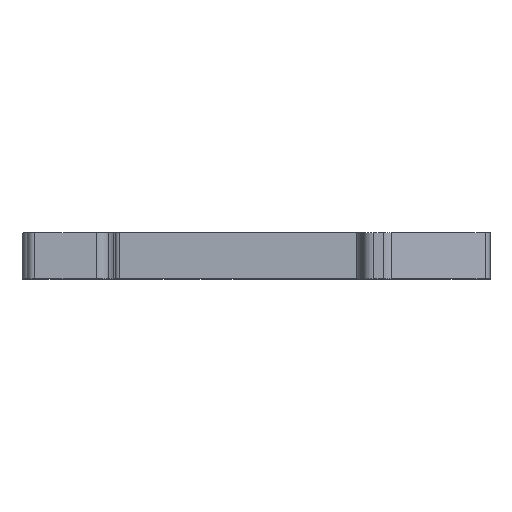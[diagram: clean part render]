
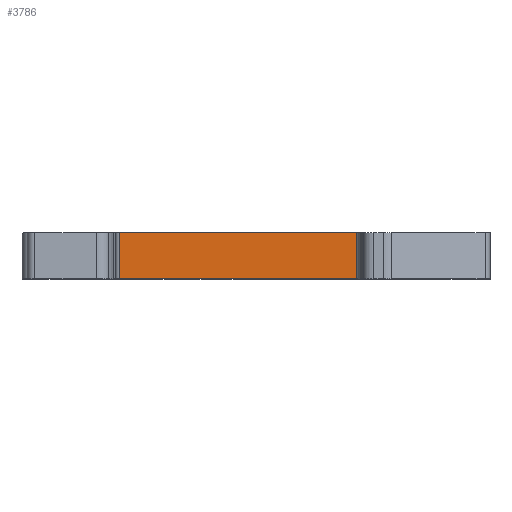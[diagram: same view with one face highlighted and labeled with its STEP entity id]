
A CAD part, top view. The second image highlights one B-rep face of the part: STEP entity #3786.
In plain terms, the highlighted planar face has unit normal (0, 0, 1).
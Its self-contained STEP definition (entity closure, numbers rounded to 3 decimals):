
#329=FACE_OUTER_BOUND('',#525,.T.);
#525=EDGE_LOOP('',(#2869,#2870,#2871,#2872));
#720=LINE('',#5596,#1108);
#840=LINE('',#5997,#1228);
#859=LINE('',#6048,#1247);
#860=LINE('',#6050,#1248);
#1108=VECTOR('',#4443,32.92);
#1228=VECTOR('',#4827,32.92);
#1247=VECTOR('',#4886,6.15);
#1248=VECTOR('',#4889,6.15);
#1527=VERTEX_POINT('',#5593);
#1528=VERTEX_POINT('',#5595);
#1676=VERTEX_POINT('',#5994);
#1677=VERTEX_POINT('',#5996);
#1891=EDGE_CURVE('',#1527,#1528,#720,.T.);
#2092=EDGE_CURVE('',#1677,#1676,#840,.T.);
#2118=EDGE_CURVE('',#1527,#1677,#859,.T.);
#2119=EDGE_CURVE('',#1528,#1676,#860,.T.);
#2869=ORIENTED_EDGE('',*,*,#1891,.F.);
#2870=ORIENTED_EDGE('',*,*,#2118,.T.);
#2871=ORIENTED_EDGE('',*,*,#2092,.T.);
#2872=ORIENTED_EDGE('',*,*,#2119,.F.);
#3455=PLANE('',#4120);
#3786=ADVANCED_FACE('',(#329),#3455,.T.);
#4120=AXIS2_PLACEMENT_3D('',#6049,#4887,#4888);
#4443=DIRECTION('',(1.,0.,0.));
#4827=DIRECTION('',(1.,0.,0.));
#4886=DIRECTION('',(0.,-1.,0.));
#4887=DIRECTION('center_axis',(0.,0.,1.));
#4888=DIRECTION('ref_axis',(1.,0.,0.));
#4889=DIRECTION('',(0.,-1.,0.));
#5593=CARTESIAN_POINT('',(-18.27,0.,11.95));
#5595=CARTESIAN_POINT('',(14.65,0.,11.95));
#5596=CARTESIAN_POINT('',(-18.27,0.,11.95));
#5994=CARTESIAN_POINT('',(14.65,-6.15,11.95));
#5996=CARTESIAN_POINT('',(-18.27,-6.15,11.95));
#5997=CARTESIAN_POINT('',(-18.27,-6.15,11.95));
#6048=CARTESIAN_POINT('',(-18.27,0.,11.95));
#6049=CARTESIAN_POINT('Origin',(-18.27,0.,11.95));
#6050=CARTESIAN_POINT('',(14.65,0.,11.95));
